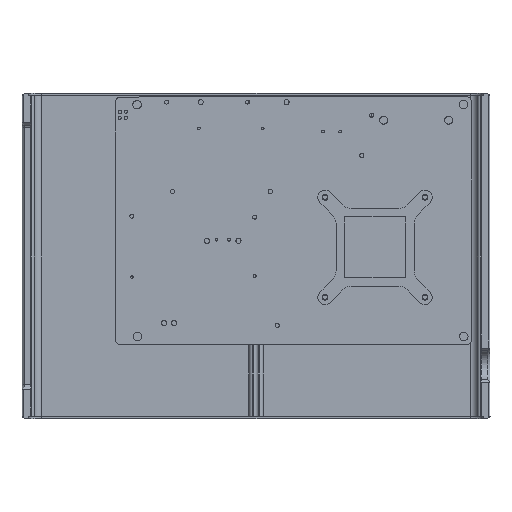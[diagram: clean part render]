
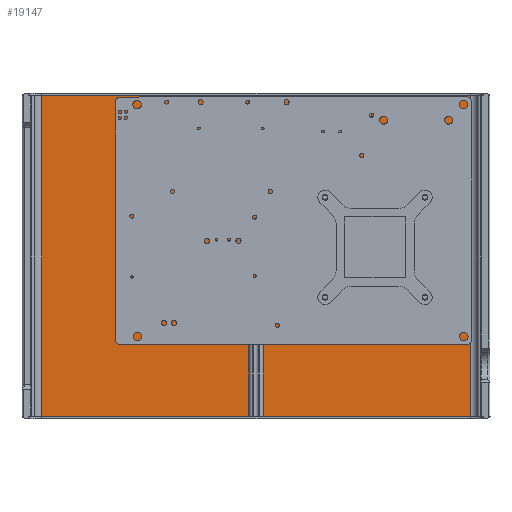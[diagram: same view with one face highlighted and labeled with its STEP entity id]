
A CAD part, front view. The second image highlights one B-rep face of the part: STEP entity #19147.
In plain terms, the highlighted planar face has unit normal (0, -1, 0).
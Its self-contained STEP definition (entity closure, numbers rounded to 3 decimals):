
#7492=DIRECTION('',(-1.,0.,0.));
#7493=VECTOR('',#7492,40.669);
#7494=CARTESIAN_POINT('',(180.2,26.5,-1.));
#7495=LINE('',#7494,#7493);
#7520=DIRECTION('',(-1.,0.,0.));
#7521=VECTOR('',#7520,27.329);
#7522=CARTESIAN_POINT('',(122.529,26.5,-1.));
#7523=LINE('',#7522,#7521);
#7589=DIRECTION('',(-1.,0.,0.));
#7590=VECTOR('',#7589,85.);
#7591=CARTESIAN_POINT('',(89.2,26.5,-1.));
#7592=LINE('',#7591,#7590);
#7812=DIRECTION('',(0.,0.,-1.));
#7813=VECTOR('',#7812,131.5);
#7814=CARTESIAN_POINT('',(4.2,26.5,-1.));
#7815=LINE('',#7814,#7813);
#7826=DIRECTION('',(0.,0.,-1.));
#7827=VECTOR('',#7826,17.);
#7828=CARTESIAN_POINT('',(122.529,26.5,-1.));
#7829=LINE('',#7828,#7827);
#7833=CARTESIAN_POINT('',(123.529,26.5,-18.));
#7834=DIRECTION('',(0.,-1.,0.));
#7835=DIRECTION('',(-1.,0.,0.));
#7836=AXIS2_PLACEMENT_3D('',#7833,#7834,#7835);
#7841=DIRECTION('',(1.,0.,0.));
#7842=VECTOR('',#7841,15.001);
#7843=CARTESIAN_POINT('',(123.529,26.5,-19.));
#7844=LINE('',#7843,#7842);
#7848=CARTESIAN_POINT('',(138.531,26.5,-18.));
#7849=DIRECTION('',(0.,-1.,0.));
#7850=DIRECTION('',(0.,0.,-1.));
#7851=AXIS2_PLACEMENT_3D('',#7848,#7849,#7850);
#7856=DIRECTION('',(-1.,0.,0.));
#7857=VECTOR('',#7856,85.);
#7858=CARTESIAN_POINT('',(180.2,26.5,-132.5));
#7859=LINE('',#7858,#7857);
#7863=DIRECTION('',(0.,0.,1.));
#7864=VECTOR('',#7863,34.676);
#7865=CARTESIAN_POINT('',(95.2,26.5,-132.5));
#7866=LINE('',#7865,#7864);
#7870=DIRECTION('',(-1.,0.,0.));
#7871=VECTOR('',#7870,85.);
#7872=CARTESIAN_POINT('',(89.2,26.5,-132.5));
#7873=LINE('',#7872,#7871);
#7877=DIRECTION('',(0.,0.,1.));
#7878=VECTOR('',#7877,30.824);
#7879=CARTESIAN_POINT('',(95.2,26.5,-31.824));
#7880=LINE('',#7879,#7878);
#7949=DIRECTION('',(0.,0.,-1.));
#7950=VECTOR('',#7949,17.);
#7951=CARTESIAN_POINT('',(139.531,26.5,-1.));
#7952=LINE('',#7951,#7950);
#7963=DIRECTION('',(0.,0.,1.));
#7964=VECTOR('',#7963,131.5);
#7965=CARTESIAN_POINT('',(180.2,26.5,-132.5));
#7966=LINE('',#7965,#7964);
#8051=DIRECTION('',(1.,0.,0.));
#8052=VECTOR('',#8051,6.);
#8053=CARTESIAN_POINT('',(89.2,26.5,-97.824));
#8054=LINE('',#8053,#8052);
#8150=DIRECTION('',(0.,0.,1.));
#8151=VECTOR('',#8150,34.676);
#8152=CARTESIAN_POINT('',(89.2,26.5,-132.5));
#8153=LINE('',#8152,#8151);
#8157=DIRECTION('',(0.,0.,1.));
#8158=VECTOR('',#8157,30.824);
#8159=CARTESIAN_POINT('',(89.2,26.5,-31.824));
#8160=LINE('',#8159,#8158);
#8232=DIRECTION('',(-1.,0.,0.));
#8233=VECTOR('',#8232,6.);
#8234=CARTESIAN_POINT('',(95.2,26.5,-31.824));
#8235=LINE('',#8234,#8233);
#16826=CARTESIAN_POINT('',(180.2,26.5,-1.));
#16827=VERTEX_POINT('',#16826);
#16828=CARTESIAN_POINT('',(139.531,26.5,-1.));
#16829=VERTEX_POINT('',#16828);
#16834=CARTESIAN_POINT('',(122.529,26.5,-1.));
#16835=VERTEX_POINT('',#16834);
#16836=CARTESIAN_POINT('',(95.2,26.5,-1.));
#16837=VERTEX_POINT('',#16836);
#16860=CARTESIAN_POINT('',(89.2,26.5,-1.));
#16861=VERTEX_POINT('',#16860);
#16862=CARTESIAN_POINT('',(4.2,26.5,-1.));
#16863=VERTEX_POINT('',#16862);
#16872=CARTESIAN_POINT('',(4.2,26.5,-132.5));
#16873=VERTEX_POINT('',#16872);
#16874=CARTESIAN_POINT('',(89.2,26.5,-132.5));
#16875=VERTEX_POINT('',#16874);
#16898=CARTESIAN_POINT('',(95.2,26.5,-132.5));
#16899=VERTEX_POINT('',#16898);
#16900=CARTESIAN_POINT('',(180.2,26.5,-132.5));
#16901=VERTEX_POINT('',#16900);
#16924=CARTESIAN_POINT('',(122.529,26.5,-18.));
#16925=VERTEX_POINT('',#16924);
#16926=CARTESIAN_POINT('',(123.529,26.5,-19.));
#16927=VERTEX_POINT('',#16926);
#16928=CARTESIAN_POINT('',(138.531,26.5,-19.));
#16929=VERTEX_POINT('',#16928);
#16930=CARTESIAN_POINT('',(139.531,26.5,-18.));
#16931=VERTEX_POINT('',#16930);
#16932=CARTESIAN_POINT('',(95.2,26.5,-97.824));
#16933=VERTEX_POINT('',#16932);
#16934=CARTESIAN_POINT('',(89.2,26.5,-97.824));
#16935=VERTEX_POINT('',#16934);
#16936=CARTESIAN_POINT('',(89.2,26.5,-31.824));
#16937=VERTEX_POINT('',#16936);
#16938=CARTESIAN_POINT('',(95.2,26.5,-31.824));
#16939=VERTEX_POINT('',#16938);
#19110=CARTESIAN_POINT('',(180.2,26.5,0.));
#19111=DIRECTION('',(0.,1.,0.));
#19112=DIRECTION('',(-1.,0.,0.));
#19113=AXIS2_PLACEMENT_3D('',#19110,#19111,#19112);
#19114=PLANE('',#19113);
#19116=ORIENTED_EDGE('',*,*,#19115,.T.);
#19118=ORIENTED_EDGE('',*,*,#19117,.T.);
#19120=ORIENTED_EDGE('',*,*,#19119,.T.);
#19122=ORIENTED_EDGE('',*,*,#19121,.T.);
#19124=ORIENTED_EDGE('',*,*,#19123,.F.);
#19125=ORIENTED_EDGE('',*,*,#18958,.F.);
#19127=ORIENTED_EDGE('',*,*,#19126,.F.);
#19128=ORIENTED_EDGE('',*,*,#19052,.T.);
#19130=ORIENTED_EDGE('',*,*,#19129,.T.);
#19132=ORIENTED_EDGE('',*,*,#19131,.F.);
#19134=ORIENTED_EDGE('',*,*,#19133,.F.);
#19135=ORIENTED_EDGE('',*,*,#19026,.T.);
#19136=ORIENTED_EDGE('',*,*,#19103,.F.);
#19137=ORIENTED_EDGE('',*,*,#18992,.F.);
#19139=ORIENTED_EDGE('',*,*,#19138,.F.);
#19141=ORIENTED_EDGE('',*,*,#19140,.F.);
#19143=ORIENTED_EDGE('',*,*,#19142,.T.);
#19144=ORIENTED_EDGE('',*,*,#18966,.F.);
#19145=EDGE_LOOP('',(#19116,#19118,#19120,#19122,#19124,#19125,#19127,#19128,
#19130,#19132,#19134,#19135,#19136,#19137,#19139,#19141,#19143,#19144));
#19146=FACE_OUTER_BOUND('',#19145,.F.);
#19147=ADVANCED_FACE('',(#19146),#19114,.F.);
#7837=CIRCLE('',#7836,1.);
#7852=CIRCLE('',#7851,1.);
#18958=EDGE_CURVE('',#16827,#16829,#7495,.T.);
#18966=EDGE_CURVE('',#16835,#16837,#7523,.T.);
#18992=EDGE_CURVE('',#16861,#16863,#7592,.T.);
#19026=EDGE_CURVE('',#16875,#16873,#7873,.T.);
#19052=EDGE_CURVE('',#16901,#16899,#7859,.T.);
#19103=EDGE_CURVE('',#16863,#16873,#7815,.T.);
#19115=EDGE_CURVE('',#16835,#16925,#7829,.T.);
#19117=EDGE_CURVE('',#16925,#16927,#7837,.T.);
#19119=EDGE_CURVE('',#16927,#16929,#7844,.T.);
#19121=EDGE_CURVE('',#16929,#16931,#7852,.T.);
#19123=EDGE_CURVE('',#16829,#16931,#7952,.T.);
#19126=EDGE_CURVE('',#16901,#16827,#7966,.T.);
#19129=EDGE_CURVE('',#16899,#16933,#7866,.T.);
#19131=EDGE_CURVE('',#16935,#16933,#8054,.T.);
#19133=EDGE_CURVE('',#16875,#16935,#8153,.T.);
#19138=EDGE_CURVE('',#16937,#16861,#8160,.T.);
#19140=EDGE_CURVE('',#16939,#16937,#8235,.T.);
#19142=EDGE_CURVE('',#16939,#16837,#7880,.T.);
